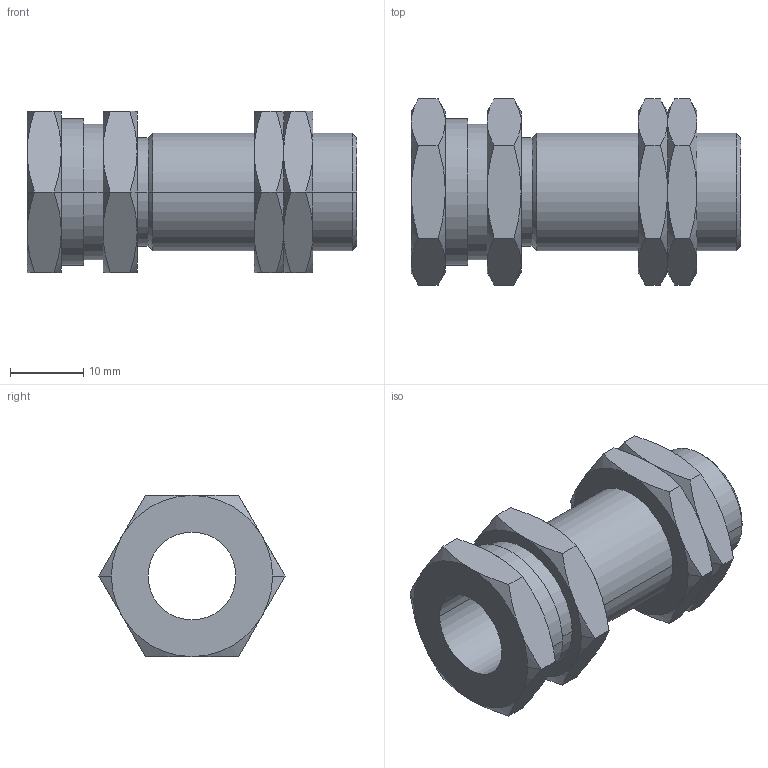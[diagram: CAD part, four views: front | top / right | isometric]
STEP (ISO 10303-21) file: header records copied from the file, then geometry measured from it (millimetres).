
FILE_DESCRIPTION( ( '' ), '1' );
FILE_NAME( '//partserver001.servicenet/client_exchange/iodir/jobs/output/wkb16403703_no2/STEP/e10741_2_03.stp', '2009-05-25T06:54:00', ( '' ), ( '' ), ' ', ' ', ' ' );
FILE_SCHEMA( ( 'CONFIG_CONTROL_DESIGN' ) );
Length unit declared in the file: millimetre
Products named in the file (3): 1; 2; 3
Bounding box: 45 x 25.4 x 22 mm (x, y, z)
Volume: 8285 mm3; surface area: 6935.4 mm2
Topology: 3 solids, 3 shells, 124 faces, 264 edges, 150 vertices
Faces by surface type: cone 76, plane 34, cylinder 14
Entity records: 3314 total; most frequent: CARTESIAN_POINT 733, ORIENTED_EDGE 528, DIRECTION 524, EDGE_CURVE 264, AXIS2_PLACEMENT_3D 229, VERTEX_POINT 150, EDGE_LOOP 134, ADVANCED_FACE 124
